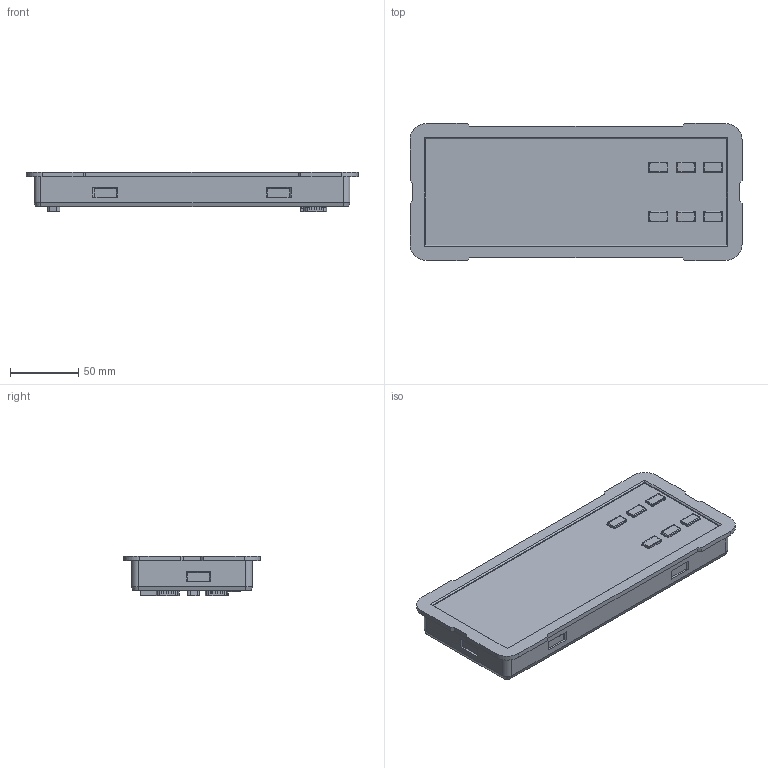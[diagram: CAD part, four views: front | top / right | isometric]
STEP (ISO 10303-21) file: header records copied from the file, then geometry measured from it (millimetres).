
FILE_DESCRIPTION(/* description */ (''),/* implementation_level */ '2;1');
FILE_NAME(/* name */ 'PREDVADECI.step',/* time_stamp */ '2023-11-14T15:48:58+01:00',/* author */ (''),/* organization */ (''),/* preprocessor_version */ 'ST-DEVELOPER v20',/* originating_system */ 'Autodesk Translation Framework v12.14.0.127',/* authorisation */ '');
FILE_SCHEMA (('AUTOMOTIVE_DESIGN { 1 0 10303 214 3 1 1 }'));
Products named in the file (1): PREDVADECI
Bounding box: 243.6 x 100.6 x 29.08 mm (x, y, z)
Volume: 455391.8 mm3; surface area: 76180.2 mm2
Topology: 1 solids, 12 shells, 2065 faces, 5262 edges, 3311 vertices
Faces by surface type: plane 721, cylinder 591, bspline 477, torus 179, sphere 85, cone 12
Full cylindrical faces by diameter (mm): 0.84 x27, 1.04 x27, 1.14 x27
Entity records: 91645 total; most frequent: CARTESIAN_POINT 44773, ORIENTED_EDGE 10380, DIRECTION 8737, EDGE_CURVE 5190, VERTEX_POINT 3311, AXIS2_PLACEMENT_3D 3128, LINE 2481, VECTOR 2481
